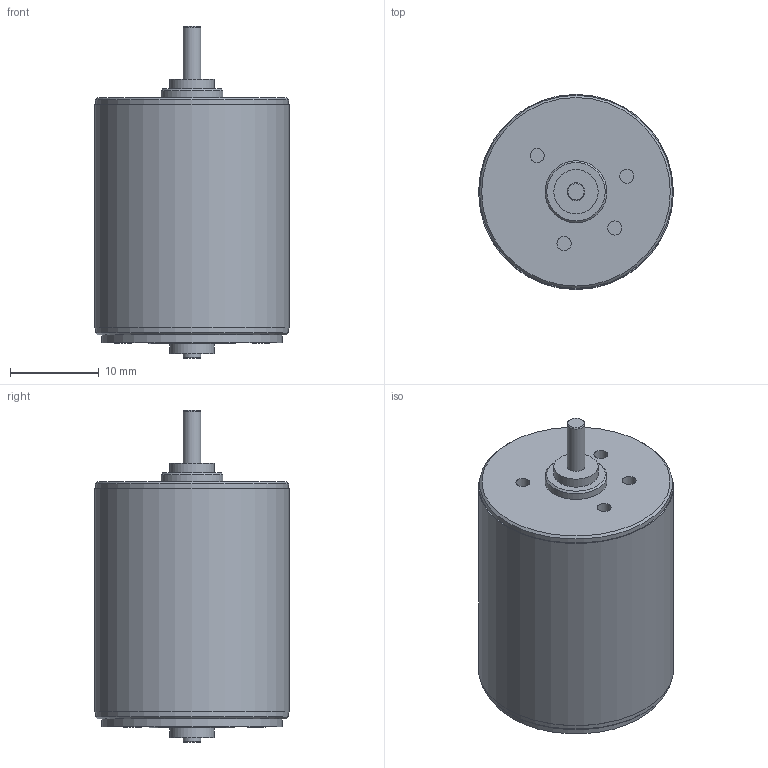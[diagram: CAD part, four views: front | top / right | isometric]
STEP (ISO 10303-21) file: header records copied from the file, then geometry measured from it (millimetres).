
FILE_DESCRIPTION(/* description */ (''),/* implementation_level */ '2;1');
FILE_NAME(/* name */ 'AM2224_10.stp',/* time_stamp */ '2018-11-28T08:11:57+01:00',/* author */ ('DR. FRITZ FAULHABER GmbH & Co. KG'),/* organization */ ('DR. FRITZ FAULHABER GmbH & Co. KG'),/* preprocessor_version */ 'ST-DEVELOPER v16.7',/* originating_system */ 'SIEMENS PLM Software NX 12.0',/* authorisation */ '');
FILE_SCHEMA (('AUTOMOTIVE_DESIGN { 1 0 10303 214 3 1 1 1 }'));
Length unit declared in the file: millimetre
Products named in the file (1): Alle_Motoren
Bounding box: 22 x 22 x 37.5 mm (x, y, z)
Volume: 10552.8 mm3; surface area: 2850.8 mm2
Topology: 1 solids, 1 shells, 114 faces, 242 edges, 160 vertices
Faces by surface type: plane 82, cylinder 19, extrusion 7, cone 6
Full cylindrical faces by diameter (mm): 1.6 x4, 2 x6, 5 x2, 7 x1, 10 x1, 10.2 x1, 20.4 x1, 21.8 x2, 22 x1
Entity records: 3369 total; most frequent: CARTESIAN_POINT 905, ORIENTED_EDGE 430, DIRECTION 400, EDGE_CURVE 215, EDGE_LOOP 169, VERTEX_POINT 158, AXIS2_PLACEMENT_3D 152, ADVANCED_FACE 114
